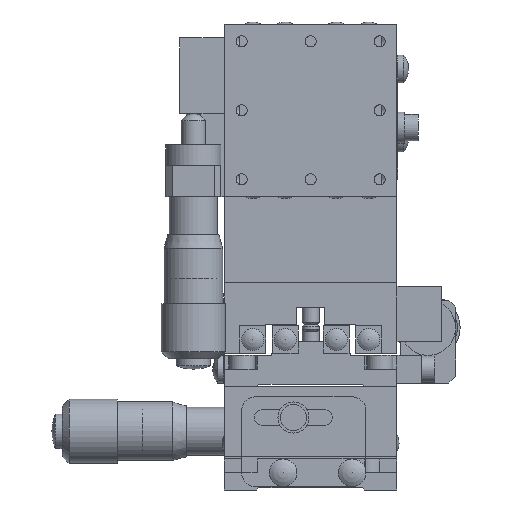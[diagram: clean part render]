
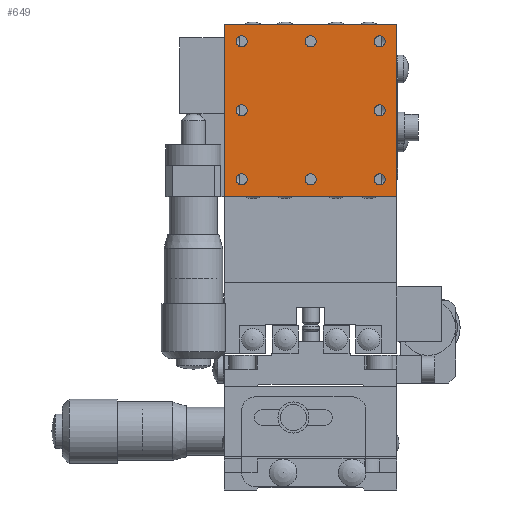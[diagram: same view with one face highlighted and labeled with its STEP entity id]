
A CAD part, front view. The second image highlights one B-rep face of the part: STEP entity #649.
In plain terms, the highlighted planar face has unit normal (0, -1, 0).
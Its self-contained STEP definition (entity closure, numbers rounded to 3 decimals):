
#649 = ADVANCED_FACE( '', ( #1524, #1525, #1526, #1527, #1528, #1529, #1530, #1531, #1532 ), #1533, .T. );
#1524 = FACE_BOUND( '', #3184, .T. );
#1525 = FACE_BOUND( '', #3185, .T. );
#1526 = FACE_BOUND( '', #3186, .T. );
#1527 = FACE_BOUND( '', #3187, .T. );
#1528 = FACE_BOUND( '', #3188, .T. );
#1529 = FACE_BOUND( '', #3189, .T. );
#1530 = FACE_BOUND( '', #3190, .T. );
#1531 = FACE_BOUND( '', #3191, .T. );
#1532 = FACE_OUTER_BOUND( '', #3192, .T. );
#1533 = PLANE( '', #3193 );
#3184 = EDGE_LOOP( '', ( #5540 ) );
#3185 = EDGE_LOOP( '', ( #5541 ) );
#3186 = EDGE_LOOP( '', ( #5542 ) );
#3187 = EDGE_LOOP( '', ( #5543 ) );
#3188 = EDGE_LOOP( '', ( #5544 ) );
#3189 = EDGE_LOOP( '', ( #5545 ) );
#3190 = EDGE_LOOP( '', ( #5546 ) );
#3191 = EDGE_LOOP( '', ( #5547 ) );
#3192 = EDGE_LOOP( '', ( #5548, #5549, #5550, #5551 ) );
#3193 = AXIS2_PLACEMENT_3D( '', #5552, #5553, #5554 );
#5540 = ORIENTED_EDGE( '', *, *, #9519, .T. );
#5541 = ORIENTED_EDGE( '', *, *, #9520, .T. );
#5542 = ORIENTED_EDGE( '', *, *, #9521, .T. );
#5543 = ORIENTED_EDGE( '', *, *, #9522, .T. );
#5544 = ORIENTED_EDGE( '', *, *, #9523, .T. );
#5545 = ORIENTED_EDGE( '', *, *, #9524, .T. );
#5546 = ORIENTED_EDGE( '', *, *, #9525, .T. );
#5547 = ORIENTED_EDGE( '', *, *, #9526, .T. );
#5548 = ORIENTED_EDGE( '', *, *, #9527, .F. );
#5549 = ORIENTED_EDGE( '', *, *, #9528, .F. );
#5550 = ORIENTED_EDGE( '', *, *, #9529, .F. );
#5551 = ORIENTED_EDGE( '', *, *, #9512, .F. );
#5552 = CARTESIAN_POINT( '', ( 0., -32.5, 55. ) );
#5553 = DIRECTION( '', ( 0., -1., 0. ) );
#5554 = DIRECTION( '', ( 1., 0., 0. ) );
#9512 = EDGE_CURVE( '', #11085, #11087, #11088, .T. );
#9519 = EDGE_CURVE( '', #11100, #11100, #11101, .T. );
#9520 = EDGE_CURVE( '', #11102, #11102, #11103, .T. );
#9521 = EDGE_CURVE( '', #11104, #11104, #11105, .T. );
#9522 = EDGE_CURVE( '', #11106, #11106, #11107, .T. );
#9523 = EDGE_CURVE( '', #11108, #11108, #11109, .T. );
#9524 = EDGE_CURVE( '', #11110, #11110, #11111, .T. );
#9525 = EDGE_CURVE( '', #11112, #11112, #11113, .T. );
#9526 = EDGE_CURVE( '', #11114, #11114, #11115, .T. );
#9527 = EDGE_CURVE( '', #11116, #11085, #11117, .T. );
#9528 = EDGE_CURVE( '', #11118, #11116, #11119, .T. );
#9529 = EDGE_CURVE( '', #11087, #11118, #11120, .T. );
#11085 = VERTEX_POINT( '', #13638 );
#11087 = VERTEX_POINT( '', #13641 );
#11088 = LINE( '', #13642, #13643 );
#11100 = VERTEX_POINT( '', #13661 );
#11101 = CIRCLE( '', #13662, 0.8 );
#11102 = VERTEX_POINT( '', #13663 );
#11103 = CIRCLE( '', #13664, 0.8 );
#11104 = VERTEX_POINT( '', #13665 );
#11105 = CIRCLE( '', #13666, 0.8 );
#11106 = VERTEX_POINT( '', #13667 );
#11107 = CIRCLE( '', #13668, 0.8 );
#11108 = VERTEX_POINT( '', #13669 );
#11109 = CIRCLE( '', #13670, 0.8 );
#11110 = VERTEX_POINT( '', #13671 );
#11111 = CIRCLE( '', #13672, 0.8 );
#11112 = VERTEX_POINT( '', #13673 );
#11113 = CIRCLE( '', #13674, 0.8 );
#11114 = VERTEX_POINT( '', #13675 );
#11115 = CIRCLE( '', #13676, 0.8 );
#11116 = VERTEX_POINT( '', #13677 );
#11117 = LINE( '', #13678, #13679 );
#11118 = VERTEX_POINT( '', #13680 );
#11119 = LINE( '', #13681, #13682 );
#11120 = LINE( '', #13683, #13684 );
#13638 = CARTESIAN_POINT( '', ( -12.5, -32.5, 42.5 ) );
#13641 = CARTESIAN_POINT( '', ( -12.5, -32.5, 67.5 ) );
#13642 = CARTESIAN_POINT( '', ( -12.5, -32.5, 55. ) );
#13643 = VECTOR( '', #16827, 1000. );
#13661 = CARTESIAN_POINT( '', ( 0.8, -32.5, 65. ) );
#13662 = AXIS2_PLACEMENT_3D( '', #16834, #16835, #16836 );
#13663 = CARTESIAN_POINT( '', ( 0.8, -32.5, 45. ) );
#13664 = AXIS2_PLACEMENT_3D( '', #16837, #16838, #16839 );
#13665 = CARTESIAN_POINT( '', ( 10.8, -32.5, 55. ) );
#13666 = AXIS2_PLACEMENT_3D( '', #16840, #16841, #16842 );
#13667 = CARTESIAN_POINT( '', ( 10.8, -32.5, 65. ) );
#13668 = AXIS2_PLACEMENT_3D( '', #16843, #16844, #16845 );
#13669 = CARTESIAN_POINT( '', ( -9.2, -32.5, 65. ) );
#13670 = AXIS2_PLACEMENT_3D( '', #16846, #16847, #16848 );
#13671 = CARTESIAN_POINT( '', ( -9.2, -32.5, 55. ) );
#13672 = AXIS2_PLACEMENT_3D( '', #16849, #16850, #16851 );
#13673 = CARTESIAN_POINT( '', ( -9.2, -32.5, 45. ) );
#13674 = AXIS2_PLACEMENT_3D( '', #16852, #16853, #16854 );
#13675 = CARTESIAN_POINT( '', ( 10.8, -32.5, 45. ) );
#13676 = AXIS2_PLACEMENT_3D( '', #16855, #16856, #16857 );
#13677 = CARTESIAN_POINT( '', ( 12.5, -32.5, 42.5 ) );
#13678 = CARTESIAN_POINT( '', ( 0., -32.5, 42.5 ) );
#13679 = VECTOR( '', #16858, 1000. );
#13680 = CARTESIAN_POINT( '', ( 12.5, -32.5, 67.5 ) );
#13681 = CARTESIAN_POINT( '', ( 12.5, -32.5, 55. ) );
#13682 = VECTOR( '', #16859, 1000. );
#13683 = CARTESIAN_POINT( '', ( 0., -32.5, 67.5 ) );
#13684 = VECTOR( '', #16860, 1000. );
#16827 = DIRECTION( '', ( 0., 0., 1. ) );
#16834 = CARTESIAN_POINT( '', ( 0., -32.5, 65. ) );
#16835 = DIRECTION( '', ( 0., 1., 0. ) );
#16836 = DIRECTION( '', ( 1., 0., 0. ) );
#16837 = CARTESIAN_POINT( '', ( 0., -32.5, 45. ) );
#16838 = DIRECTION( '', ( 0., 1., 0. ) );
#16839 = DIRECTION( '', ( 1., 0., 0. ) );
#16840 = CARTESIAN_POINT( '', ( 10., -32.5, 55. ) );
#16841 = DIRECTION( '', ( 0., 1., 0. ) );
#16842 = DIRECTION( '', ( 1., 0., 0. ) );
#16843 = CARTESIAN_POINT( '', ( 10., -32.5, 65. ) );
#16844 = DIRECTION( '', ( 0., 1., 0. ) );
#16845 = DIRECTION( '', ( 1., 0., 0. ) );
#16846 = CARTESIAN_POINT( '', ( -10., -32.5, 65. ) );
#16847 = DIRECTION( '', ( 0., 1., 0. ) );
#16848 = DIRECTION( '', ( 1., 0., 0. ) );
#16849 = CARTESIAN_POINT( '', ( -10., -32.5, 55. ) );
#16850 = DIRECTION( '', ( 0., 1., 0. ) );
#16851 = DIRECTION( '', ( 1., 0., 0. ) );
#16852 = CARTESIAN_POINT( '', ( -10., -32.5, 45. ) );
#16853 = DIRECTION( '', ( 0., 1., 0. ) );
#16854 = DIRECTION( '', ( 1., 0., 0. ) );
#16855 = CARTESIAN_POINT( '', ( 10., -32.5, 45. ) );
#16856 = DIRECTION( '', ( 0., 1., 0. ) );
#16857 = DIRECTION( '', ( 1., 0., 0. ) );
#16858 = DIRECTION( '', ( -1., 0., 0. ) );
#16859 = DIRECTION( '', ( 0., 0., -1. ) );
#16860 = DIRECTION( '', ( 1., 0., 0. ) );
